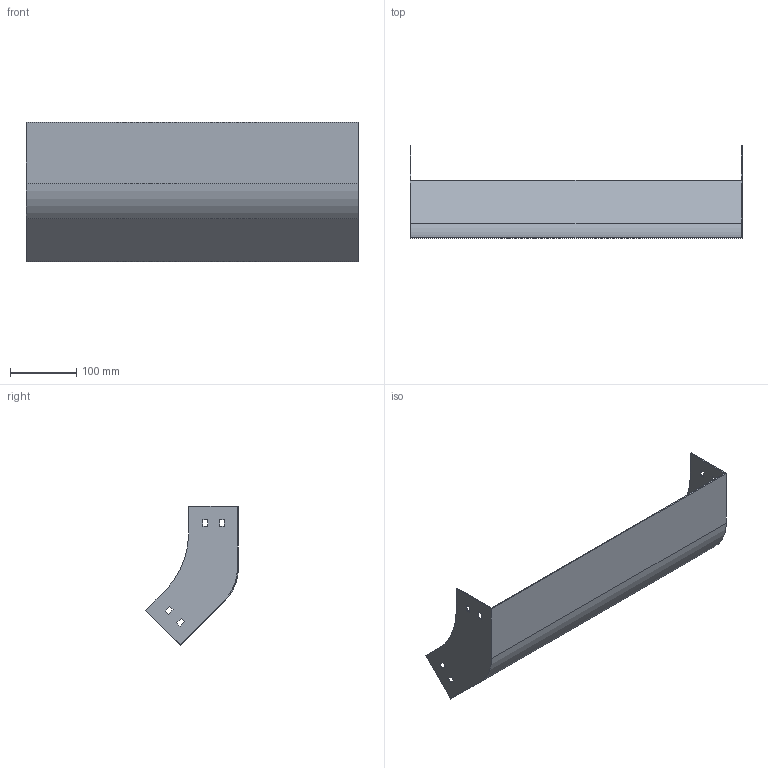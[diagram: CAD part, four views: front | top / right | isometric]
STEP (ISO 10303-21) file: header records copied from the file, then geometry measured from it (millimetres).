
FILE_DESCRIPTION (( 'STEP AP214' ), '1' );
FILE_NAME ('S4_507.step', '2025-07-16T09:27:12', ( '' ), ( '' ), 'SwSTEP 2.0', 'SolidWorks 2023', '' );
FILE_SCHEMA (( 'AUTOMOTIVE_DESIGN' ));
Length unit declared in the file: millimetre
Products named in the file (1): S4_507
Bounding box: 500 x 139.9 x 209.71 mm (x, y, z)
Volume: 228408.3 mm3; surface area: 307429.7 mm2
Topology: 1 solids, 1 shells, 50 faces, 144 edges, 96 vertices
Faces by surface type: plane 46, cylinder 4
Entity records: 1671 total; most frequent: CARTESIAN_POINT 291, ORIENTED_EDGE 288, DIRECTION 254, EDGE_CURVE 144, LINE 136, VECTOR 136, VERTEX_POINT 96, EDGE_LOOP 66
